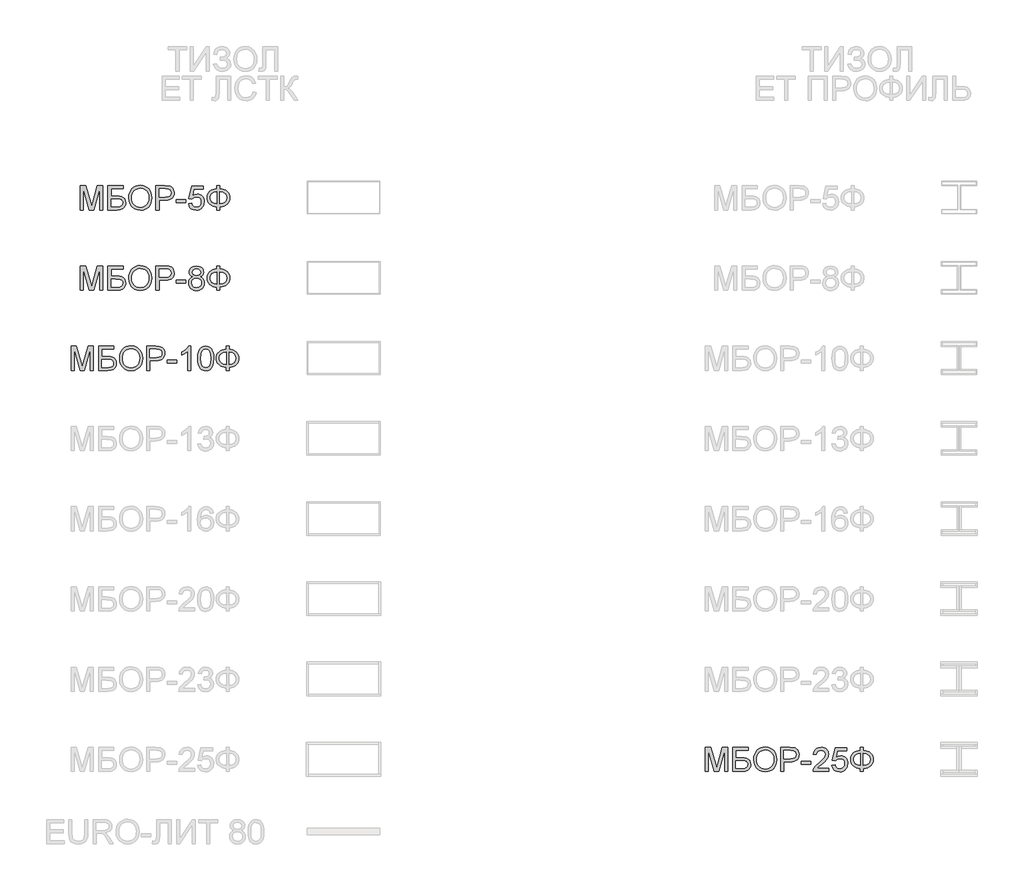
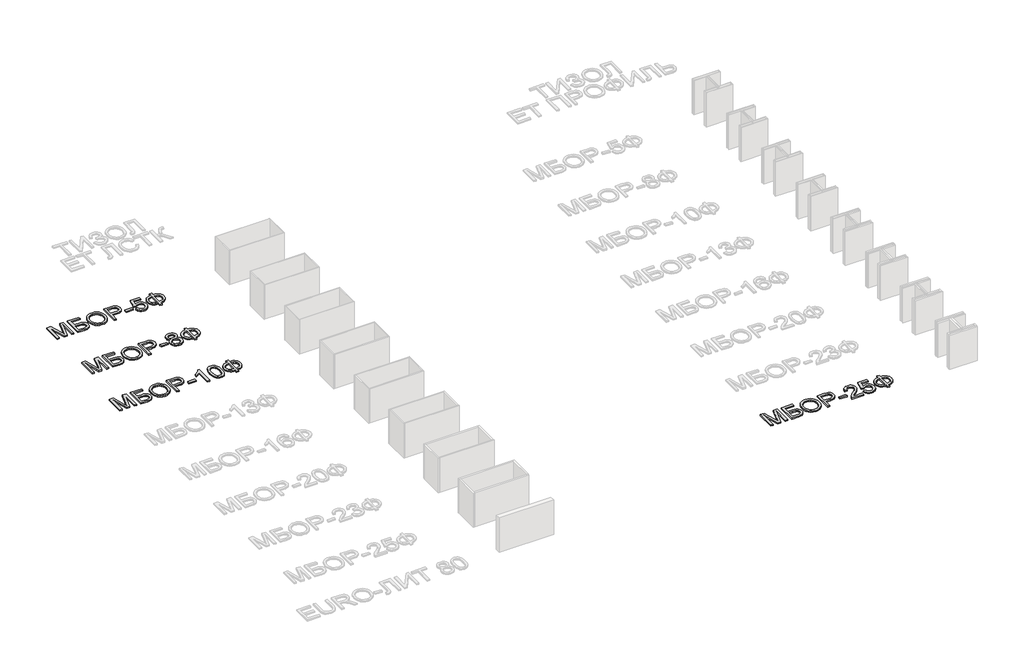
# One storey, part 13 of 35: 4 proxies.
"""IFC4 building model written with IfcOpenShell, lengths in millimetres."""

from ifc_helpers import new_model, si_unit, origin, origin_with_axes, place, context, project, spatial, polyline, outline, extrude, element, save

model = new_model("IFC4")

# Units and contexts
model_context = context("Model", 3, world=origin())
ifc_project = project(units=[si_unit("LENGTHUNIT", "METRE", prefix="MILLI")], contexts=[model_context])

# Site, building, storey
site = spatial("IfcSite", under=ifc_project)
building = spatial("IfcBuilding", under=site)
storey = spatial("IfcBuildingStorey", under=building, Name="Этаж 01", Elevation=0.0)

# Proxies
placement = place(None, origin())
element("IfcBuildingElementProxy", 1, Name="600 мм Arial", ObjectType="600 мм Arial", at=placement, inside=storey, context=model_context, shape_type="SweptSolid", body=[
    extrude(outline(polyline([(7721.8782648, -49310.4960856), (7721.8782648, -49009.1271552), (7786.6990723, -49009.1271552), (7848.3560947, -49221.5422192), (7860.7905062, -49265.9087878), (7874.2549872, -49217.8633993), (7934.88194, -49009.1271552), (7999.7027475, -49009.1271552), (7999.7027475, -49310.4960856), (7962.0316312, -49310.4960856), (7962.0316312, -49046.7982715), (7886.3215166, -49310.4960856), (7835.2594957, -49310.4960856), (7759.5493811, -49046.7982715), (7759.5493811, -49310.4960856), (7721.8782648, -49310.4960856)])), origin_with_axes(), (0.0, 0.0, 1.0), 20.0),
    extrude(outline(polyline([(8065.6272011, -49009.1271552), (8253.9827826, -49009.1271552), (8253.9827826, -49046.7982715), (8103.2983174, -49046.7982715), (8103.2983174, -49136.2671727), (8173.8580841, -49136.2671727), (8208.9356323, -49138.1801591), (8236.0301412, -49143.9191182), (8256.8338681, -49154.9739722), (8273.03907, -49172.8346431), (8283.4685245, -49195.8272678), (8286.9450094, -49222.2779832), (8284.471003, -49244.4888587), (8277.0489837, -49265.209812), (8264.7157398, -49283.3555915), (8247.5080595, -49297.840945), (8220.9653735, -49307.3323005), (8180.6271128, -49310.4960856), (8065.6272011, -49310.4960856), (8065.6272011, -49009.1271552)]), holes=[polyline([(8103.2983174, -49272.8249693), (8184.0116271, -49272.8249693), (8212.5408758, -49269.7163665), (8232.9399325, -49260.3905579), (8245.1904029, -49244.8475436), (8249.2738931, -49223.0873236), (8246.9378424, -49206.8821217), (8239.9296904, -49193.5831876), (8228.7552748, -49183.7239501), (8213.9204333, -49177.8378382), (8157.1562415, -49173.938289), (8103.2983174, -49173.938289), (8103.2983174, -49272.8249693)])]), origin_with_axes(), (0.0, 0.0, 1.0), 20.0),
    extrude(outline(polyline([(8324.6161257, -49163.784746), (8327.1269203, -49128.4358848), (8334.6593041, -49097.1429225), (8347.2132772, -49069.9058593), (8364.7888396, -49046.7246951), (8386.3329289, -49028.2156322), (8410.792483, -49014.994873), (8438.167502, -49007.0624175), (8468.4579858, -49004.4182657), (8507.9869062, -49009.3846726), (8543.4323364, -49024.2838934), (8572.862896, -49048.0674644), (8594.3472045, -49079.6869219), (8607.4805918, -49117.6155556), (8611.8583875, -49160.3266552), (8607.2506655, -49203.607972), (8593.4274996, -49242.0700345), (8571.1522447, -49273.7446743), (8541.1882562, -49296.6637226), (8506.0463287, -49310.569662), (8468.2372566, -49315.2049752), (8428.1013309, -49310.0822184), (8392.4535656, -49294.7139481), (8363.0965824, -49270.4889187), (8341.8330031, -49238.7958848), (8328.920345, -49202.329582), (8324.6161257, -49163.784746)]), holes=[polyline([(8362.287242, -49164.152628), (8364.1703379, -49189.1272169), (8369.8196258, -49211.2967056), (8379.2351057, -49230.6610942), (8392.4167774, -49247.2203825), (8408.4403375, -49260.4825284), (8426.3814826, -49269.9554898), (8446.2402125, -49275.6392666), (8468.0165274, -49277.5338589), (8490.1653228, -49275.6208725), (8510.2585775, -49269.8819134), (8528.2962916, -49260.3169815), (8544.278465, -49246.9260769), (8557.3635677, -49230.0173007), (8566.7100697, -49209.8987541), (8572.3179708, -49186.570437), (8574.1872712, -49160.0323496), (8570.9866978, -49126.6838468), (8561.3849778, -49097.8602924), (8545.6304313, -49074.2882536), (8523.9713789, -49056.6942972), (8497.8425602, -49045.7406108), (8468.678715, -49042.089382), (8447.6588575, -49043.8483178), (8428.1565132, -49049.1251251), (8410.1716822, -49057.9198041), (8393.7043644, -49070.2323546), (8379.9593733, -49086.6559864), (8370.1415226, -49107.7839093), (8364.2508121, -49133.6161231), (8362.287242, -49164.152628)])]), origin_with_axes(), (0.0, 0.0, 1.0), 20.0),
    extrude(outline(polyline([(8663.6561724, -49310.4960856), (8663.6561724, -49009.1271552), (8775.3451462, -49009.1271552), (8820.3739024, -49011.9966348), (8840.4510623, -49017.3585148), (8856.9781609, -49026.0865152), (8870.2862921, -49038.5761089), (8880.7065496, -49055.2227692), (8887.4387901, -49074.8584707), (8889.6828703, -49096.3151881), (8888.1676563, -49114.8150539), (8883.6220144, -49131.8341947), (8876.0459446, -49147.3726105), (8865.4394468, -49161.4303012), (8850.8782176, -49173.0829634), (8831.4379534, -49181.4062935), (8807.1186542, -49186.4002916), (8777.9203201, -49188.0649577), (8701.3272887, -49188.0649577), (8701.3272887, -49310.4960856), (8663.6561724, -49310.4960856)]), holes=[polyline([(8701.3272887, -49150.3938413), (8780.1276121, -49150.3938413), (8813.5312973, -49146.9357506), (8835.604217, -49136.5614783), (8847.9098697, -49119.914818), (8852.011754, -49097.6395632), (8849.5929298, -49080.7169915), (8842.3364575, -49066.44317), (8831.1436478, -49055.7010158), (8816.9158116, -49049.3734455), (8779.2446953, -49046.7982715), (8701.3272887, -49046.7982715), (8701.3272887, -49150.3938413)])]), origin_with_axes(), (0.0, 0.0, 1.0), 20.0),
    extrude(outline(polyline([(8917.9362075, -49221.0271844), (8917.9362075, -49183.3560681), (9035.658446, -49183.3560681), (9035.658446, -49221.0271844), (8917.9362075, -49221.0271844)])), origin_with_axes(), (0.0, 0.0, 1.0), 20.0),
    extrude(outline(polyline([(9068.6206727, -49230.4449635), (9106.291789, -49225.736074), (9113.2079705, -49248.3516196), (9125.2745, -49264.5476245), (9142.4361951, -49274.2873003), (9164.6378735, -49277.5338589), (9191.6404119, -49273.0181074), (9211.8739216, -49259.4708529), (9224.5106682, -49238.4555939), (9228.722917, -49211.5358289), (9224.7773826, -49186.1887595), (9212.9407794, -49166.8013783), (9193.1211369, -49154.4957256), (9165.2264847, -49150.3938413), (9146.9519465, -49152.0309162), (9132.1538933, -49156.9421409), (9111.0006786, -49173.938289), (9073.3295623, -49169.2293995), (9106.291789, -49013.8360447), (9252.2673647, -49013.8360447), (9252.2673647, -49051.507161), (9136.7524182, -49051.507161), (9120.6391868, -49134.5013392), (9147.5497548, -49118.1673786), (9175.7479097, -49112.722725), (9194.093725, -49114.4103837), (9210.9450196, -49119.4733597), (9226.3017936, -49127.9116529), (9240.1640471, -49139.7252635), (9251.6396661, -49154.1922229), (9259.8365368, -49170.5905629), (9264.7546592, -49188.9202833), (9266.3940333, -49209.1813842), (9260.4895273, -49246.8525005), (9253.1088948, -49263.6463136), (9242.7760092, -49279.0789633), (9227.1226303, -49294.8840935), (9208.8572893, -49306.1734722), (9187.9799861, -49312.9470994), (9164.4907207, -49315.2049752), (9127.490989, -49309.4016367), (9111.8123182, -49302.1474636), (9098.0144441, -49291.9916213), (9086.5342266, -49279.4399475), (9077.8085256, -49264.9982799), (9068.6206727, -49230.4449635)])), origin_with_axes(), (0.0, 0.0, 1.0), 20.0),
    extrude(outline(polyline([(9421.7873881, -49046.7982715), (9421.7873881, -49009.1271552), (9459.4585044, -49009.1271552), (9459.4585044, -49046.7982715), (9486.3299849, -49050.1184065), (9510.2170227, -49056.9886028), (9531.1196178, -49067.4088603), (9549.0377702, -49081.3791791), (9563.4104599, -49098.0856202), (9573.6766669, -49116.7142447), (9579.836391, -49137.2650526), (9581.8896324, -49159.738044), (9579.9007704, -49181.76038), (9573.9341842, -49202.0628676), (9563.9898741, -49220.6455069), (9550.0678398, -49237.5082978), (9532.4715841, -49251.7177399), (9511.5046097, -49262.3403325), (9487.1669164, -49269.3760756), (9459.4585044, -49272.8249693), (9459.4585044, -49310.4960856), (9421.7873881, -49310.4960856), (9421.7873881, -49272.8249693), (9396.6196611, -49270.0175699), (9373.650029, -49263.6555106), (9352.8784919, -49253.7387916), (9334.3050496, -49240.2674128), (9319.0149542, -49223.7977957), (9308.0934575, -49204.8863619), (9301.5405594, -49183.5331113), (9299.3562601, -49159.738044), (9301.5336617, -49135.8349114), (9308.0658663, -49114.4517704), (9318.9528741, -49095.5886211), (9334.194685, -49079.2454635), (9352.7336383, -49065.9051426), (9373.5120733, -49056.0505037), (9396.5299899, -49049.6815466), (9421.7873881, -49046.7982715)]), holes=[polyline([(9421.7873881, -49084.4693878), (9387.5099832, -49090.5026525), (9360.4614595, -49105.5122379), (9350.2090481, -49116.217604), (9342.8858972, -49128.8359564), (9338.4920066, -49143.3672952), (9337.0273764, -49159.8116204), (9338.4736125, -49176.1064935), (9342.8123208, -49190.5573582), (9350.0435012, -49203.1642143), (9360.1671539, -49213.9270619), (9387.1421012, -49229.0746031), (9421.7873881, -49235.153853), (9421.7873881, -49084.4693878)]), polyline([(9459.4585044, -49084.4693878), (9459.4585044, -49235.153853), (9494.7015995, -49228.9274503), (9521.5569852, -49213.7799091), (9531.471405, -49203.0538497), (9538.5531334, -49190.4837818), (9544.2185161, -49159.8116204), (9538.6543009, -49129.5533263), (9531.6990319, -49117.0591341), (9521.9616554, -49106.3215783), (9495.2074373, -49090.9992932), (9459.4585044, -49084.4693878)])]), origin_with_axes(), (0.0, 0.0, 1.0), 20.0),
])
element("IfcBuildingElementProxy", 2, Name="600 мм Arial", ObjectType="600 мм Arial", at=placement, inside=storey, context=model_context, shape_type="SweptSolid", body=[
    extrude(outline(polyline([(7721.8782648, -50310.4960856), (7721.8782648, -50009.1271552), (7786.6990723, -50009.1271552), (7848.3560947, -50221.5422192), (7860.7905062, -50265.9087878), (7874.2549872, -50217.8633993), (7934.88194, -50009.1271552), (7999.7027475, -50009.1271552), (7999.7027475, -50310.4960856), (7962.0316312, -50310.4960856), (7962.0316312, -50046.7982715), (7886.3215166, -50310.4960856), (7835.2594957, -50310.4960856), (7759.5493811, -50046.7982715), (7759.5493811, -50310.4960856), (7721.8782648, -50310.4960856)])), origin_with_axes(), (0.0, 0.0, 1.0), 20.0),
    extrude(outline(polyline([(8065.6272011, -50009.1271552), (8253.9827826, -50009.1271552), (8253.9827826, -50046.7982715), (8103.2983174, -50046.7982715), (8103.2983174, -50136.2671727), (8173.8580841, -50136.2671727), (8208.9356323, -50138.1801591), (8236.0301412, -50143.9191182), (8256.8338681, -50154.9739722), (8273.03907, -50172.8346431), (8283.4685245, -50195.8272678), (8286.9450094, -50222.2779832), (8284.471003, -50244.4888587), (8277.0489837, -50265.209812), (8264.7157398, -50283.3555915), (8247.5080595, -50297.840945), (8220.9653735, -50307.3323005), (8180.6271128, -50310.4960856), (8065.6272011, -50310.4960856), (8065.6272011, -50009.1271552)]), holes=[polyline([(8103.2983174, -50272.8249693), (8184.0116271, -50272.8249693), (8212.5408758, -50269.7163665), (8232.9399325, -50260.3905579), (8245.1904029, -50244.8475436), (8249.2738931, -50223.0873236), (8246.9378424, -50206.8821217), (8239.9296904, -50193.5831876), (8228.7552748, -50183.7239501), (8213.9204333, -50177.8378382), (8157.1562415, -50173.938289), (8103.2983174, -50173.938289), (8103.2983174, -50272.8249693)])]), origin_with_axes(), (0.0, 0.0, 1.0), 20.0),
    extrude(outline(polyline([(8324.6161257, -50163.784746), (8327.1269203, -50128.4358848), (8334.6593041, -50097.1429225), (8347.2132772, -50069.9058593), (8364.7888396, -50046.7246951), (8386.3329289, -50028.2156322), (8410.792483, -50014.994873), (8438.167502, -50007.0624175), (8468.4579858, -50004.4182657), (8507.9869062, -50009.3846726), (8543.4323364, -50024.2838934), (8572.862896, -50048.0674644), (8594.3472045, -50079.6869219), (8607.4805918, -50117.6155556), (8611.8583875, -50160.3266552), (8607.2506655, -50203.607972), (8593.4274996, -50242.0700345), (8571.1522447, -50273.7446743), (8541.1882562, -50296.6637226), (8506.0463287, -50310.569662), (8468.2372566, -50315.2049752), (8428.1013309, -50310.0822184), (8392.4535656, -50294.7139481), (8363.0965824, -50270.4889187), (8341.8330031, -50238.7958848), (8328.920345, -50202.329582), (8324.6161257, -50163.784746)]), holes=[polyline([(8362.287242, -50164.152628), (8364.1703379, -50189.1272169), (8369.8196258, -50211.2967056), (8379.2351057, -50230.6610942), (8392.4167774, -50247.2203825), (8408.4403375, -50260.4825284), (8426.3814826, -50269.9554898), (8446.2402125, -50275.6392666), (8468.0165274, -50277.5338589), (8490.1653228, -50275.6208725), (8510.2585775, -50269.8819134), (8528.2962916, -50260.3169815), (8544.278465, -50246.9260769), (8557.3635677, -50230.0173007), (8566.7100697, -50209.8987541), (8572.3179708, -50186.570437), (8574.1872712, -50160.0323496), (8570.9866978, -50126.6838468), (8561.3849778, -50097.8602924), (8545.6304313, -50074.2882536), (8523.9713789, -50056.6942972), (8497.8425602, -50045.7406108), (8468.678715, -50042.089382), (8447.6588575, -50043.8483178), (8428.1565132, -50049.1251251), (8410.1716822, -50057.9198041), (8393.7043644, -50070.2323546), (8379.9593733, -50086.6559864), (8370.1415226, -50107.7839093), (8364.2508121, -50133.6161231), (8362.287242, -50164.152628)])]), origin_with_axes(), (0.0, 0.0, 1.0), 20.0),
    extrude(outline(polyline([(8663.6561724, -50310.4960856), (8663.6561724, -50009.1271552), (8775.3451462, -50009.1271552), (8820.3739024, -50011.9966348), (8840.4510623, -50017.3585148), (8856.9781609, -50026.0865152), (8870.2862921, -50038.5761089), (8880.7065496, -50055.2227692), (8887.4387901, -50074.8584707), (8889.6828703, -50096.3151881), (8888.1676563, -50114.8150539), (8883.6220144, -50131.8341947), (8876.0459446, -50147.3726105), (8865.4394468, -50161.4303012), (8850.8782176, -50173.0829634), (8831.4379534, -50181.4062935), (8807.1186542, -50186.4002916), (8777.9203201, -50188.0649577), (8701.3272887, -50188.0649577), (8701.3272887, -50310.4960856), (8663.6561724, -50310.4960856)]), holes=[polyline([(8701.3272887, -50150.3938413), (8780.1276121, -50150.3938413), (8813.5312973, -50146.9357506), (8835.604217, -50136.5614783), (8847.9098697, -50119.914818), (8852.011754, -50097.6395632), (8849.5929298, -50080.7169915), (8842.3364575, -50066.44317), (8831.1436478, -50055.7010158), (8816.9158116, -50049.3734455), (8779.2446953, -50046.7982715), (8701.3272887, -50046.7982715), (8701.3272887, -50150.3938413)])]), origin_with_axes(), (0.0, 0.0, 1.0), 20.0),
    extrude(outline(polyline([(8917.9362075, -50221.0271844), (8917.9362075, -50183.3560681), (9035.658446, -50183.3560681), (9035.658446, -50221.0271844), (8917.9362075, -50221.0271844)])), origin_with_axes(), (0.0, 0.0, 1.0), 20.0),
    extrude(outline(polyline([(9123.5086664, -50144.5077294), (9103.339536, -50134.5749156), (9089.1852763, -50121.1104345), (9080.8251579, -50104.3901979), (9078.0384518, -50084.690117), (9079.555965, -50069.3264452), (9084.1085047, -50055.2411633), (9091.6960709, -50042.4342713), (9102.3186635, -50030.9057693), (9115.4658463, -50021.3776256), (9130.627183, -50014.5718087), (9166.9923182, -50009.1271552), (9203.5781827, -50014.7005674), (9218.9050663, -50021.6673327), (9232.2545842, -50031.4208041), (9243.0703148, -50043.1746339), (9250.7958367, -50056.1424742), (9255.4311499, -50070.3243251), (9256.9762543, -50085.7201866), (9254.2263363, -50104.785671), (9245.9765826, -50121.2207991), (9232.1350225, -50134.6025067), (9212.6096856, -50144.5077294), (9235.7954484, -50156.4546972), (9252.6720349, -50174.0486536), (9262.9635337, -50196.4434701), (9266.3940333, -50222.793018), (9264.6925791, -50241.5825909), (9259.5882164, -50258.8086653), (9251.0809453, -50274.4712413), (9239.1707657, -50288.5703187), (9224.483077, -50300.2229809), (9207.6432787, -50308.5463111), (9188.6513707, -50313.5403092), (9167.507353, -50315.2049752), (9146.3633354, -50313.5334114), (9127.3714274, -50308.5187199), (9110.531629, -50300.1609008), (9095.8439404, -50288.4599541), (9083.9337608, -50274.2620084), (9075.4264896, -50258.4131922), (9070.322127, -50240.9135055), (9068.6206727, -50221.7629484), (9072.1891281, -50194.392528), (9082.8944941, -50171.8781499), (9100.1849479, -50154.9923663), (9123.5086664, -50144.5077294)]), holes=[polyline([(9115.7095681, -50085.793763), (9119.0480972, -50102.2380882), (9129.0636845, -50115.3714754), (9145.4620245, -50123.9799141), (9167.9488114, -50126.8493937), (9189.9113665, -50123.9983082), (9206.0613861, -50115.4450518), (9215.9942, -50102.753123), (9219.3051379, -50087.4860202), (9215.8838354, -50071.6395032), (9205.6199277, -50058.5337072), (9189.2491789, -50049.7321304), (9167.507353, -50046.7982715), (9145.6275714, -50049.6677511), (9129.2844137, -50058.2761898), (9119.1032795, -50070.8945422), (9115.7095681, -50085.793763)]), polyline([(9106.291789, -50220.4385732), (9112.5825711, -50248.8022751), (9121.2921774, -50260.969972), (9134.8394319, -50270.0290662), (9151.0630278, -50275.6576607), (9167.8016586, -50277.5338589), (9193.4430337, -50273.5883245), (9212.683262, -50261.7517213), (9224.7130033, -50243.8266711), (9228.722917, -50221.6157956), (9224.5842446, -50199.0278411), (9212.1682272, -50180.7073178), (9192.4865405, -50168.5672119), (9166.5508598, -50164.52051), (9141.2681697, -50168.5120296), (9122.2210794, -50180.4865886), (9110.2741116, -50198.457624), (9106.291789, -50220.4385732)])]), origin_with_axes(), (0.0, 0.0, 1.0), 20.0),
    extrude(outline(polyline([(9421.7873881, -50046.7982715), (9421.7873881, -50009.1271552), (9459.4585044, -50009.1271552), (9459.4585044, -50046.7982715), (9486.3299849, -50050.1184065), (9510.2170227, -50056.9886028), (9531.1196178, -50067.4088603), (9549.0377702, -50081.3791791), (9563.4104599, -50098.0856202), (9573.6766669, -50116.7142447), (9579.836391, -50137.2650526), (9581.8896324, -50159.738044), (9579.9007704, -50181.76038), (9573.9341842, -50202.0628676), (9563.9898741, -50220.6455069), (9550.0678398, -50237.5082978), (9532.4715841, -50251.7177399), (9511.5046097, -50262.3403325), (9487.1669164, -50269.3760756), (9459.4585044, -50272.8249693), (9459.4585044, -50310.4960856), (9421.7873881, -50310.4960856), (9421.7873881, -50272.8249693), (9396.6196611, -50270.0175699), (9373.650029, -50263.6555106), (9352.8784919, -50253.7387916), (9334.3050496, -50240.2674128), (9319.0149542, -50223.7977957), (9308.0934575, -50204.8863619), (9301.5405594, -50183.5331113), (9299.3562601, -50159.738044), (9301.5336617, -50135.8349114), (9308.0658663, -50114.4517704), (9318.9528741, -50095.5886211), (9334.194685, -50079.2454635), (9352.7336383, -50065.9051426), (9373.5120733, -50056.0505037), (9396.5299899, -50049.6815466), (9421.7873881, -50046.7982715)]), holes=[polyline([(9421.7873881, -50084.4693878), (9387.5099832, -50090.5026525), (9360.4614595, -50105.5122379), (9350.2090481, -50116.217604), (9342.8858972, -50128.8359564), (9338.4920066, -50143.3672952), (9337.0273764, -50159.8116204), (9338.4736125, -50176.1064935), (9342.8123208, -50190.5573582), (9350.0435012, -50203.1642143), (9360.1671539, -50213.9270619), (9387.1421012, -50229.0746031), (9421.7873881, -50235.153853), (9421.7873881, -50084.4693878)]), polyline([(9459.4585044, -50084.4693878), (9459.4585044, -50235.153853), (9494.7015995, -50228.9274503), (9521.5569852, -50213.7799091), (9531.471405, -50203.0538497), (9538.5531334, -50190.4837818), (9544.2185161, -50159.8116204), (9538.6543009, -50129.5533263), (9531.6990319, -50117.0591341), (9521.9616554, -50106.3215783), (9495.2074373, -50090.9992932), (9459.4585044, -50084.4693878)])]), origin_with_axes(), (0.0, 0.0, 1.0), 20.0),
])
element("IfcBuildingElementProxy", 3, Name="600 мм Arial", ObjectType="600 мм Arial", at=placement, inside=storey, context=model_context, shape_type="SweptSolid", body=[
    extrude(outline(polyline([(7606.5104711, -51310.4960856), (7606.5104711, -51009.1271552), (7671.3312786, -51009.1271552), (7732.988301, -51221.5422192), (7745.4227125, -51265.9087878), (7758.8871935, -51217.8633993), (7819.5141463, -51009.1271552), (7884.3349539, -51009.1271552), (7884.3349539, -51310.4960856), (7846.6638375, -51310.4960856), (7846.6638375, -51046.7982715), (7770.9537229, -51310.4960856), (7719.891702, -51310.4960856), (7644.1815874, -51046.7982715), (7644.1815874, -51310.4960856), (7606.5104711, -51310.4960856)])), origin_with_axes(), (0.0, 0.0, 1.0), 20.0),
    extrude(outline(polyline([(7950.2594074, -51009.1271552), (8138.6149889, -51009.1271552), (8138.6149889, -51046.7982715), (7987.9305237, -51046.7982715), (7987.9305237, -51136.2671727), (8058.4902904, -51136.2671727), (8093.5678386, -51138.1801591), (8120.6623476, -51143.9191182), (8141.4660744, -51154.9739722), (8157.6712763, -51172.8346431), (8168.1007308, -51195.8272678), (8171.5772157, -51222.2779832), (8169.1032093, -51244.4888587), (8161.68119, -51265.209812), (8149.3479461, -51283.3555915), (8132.1402658, -51297.840945), (8105.5975799, -51307.3323005), (8065.2593191, -51310.4960856), (7950.2594074, -51310.4960856), (7950.2594074, -51009.1271552)]), holes=[polyline([(7987.9305237, -51272.8249693), (8068.6438334, -51272.8249693), (8097.1730822, -51269.7163665), (8117.5721388, -51260.3905579), (8129.8226092, -51244.8475436), (8133.9060994, -51223.0873236), (8131.5700487, -51206.8821217), (8124.5618967, -51193.5831876), (8113.3874811, -51183.7239501), (8098.5526396, -51177.8378382), (8041.7884478, -51173.938289), (7987.9305237, -51173.938289), (7987.9305237, -51272.8249693)])]), origin_with_axes(), (0.0, 0.0, 1.0), 20.0),
    extrude(outline(polyline([(8209.248332, -51163.784746), (8211.7591266, -51128.4358848), (8219.2915105, -51097.1429225), (8231.8454835, -51069.9058593), (8249.4210459, -51046.7246951), (8270.9651352, -51028.2156322), (8295.4246894, -51014.994873), (8322.7997083, -51007.0624175), (8353.0901921, -51004.4182657), (8392.6191125, -51009.3846726), (8428.0645427, -51024.2838934), (8457.4951023, -51048.0674644), (8478.9794109, -51079.6869219), (8492.1127981, -51117.6155556), (8496.4905938, -51160.3266552), (8491.8828718, -51203.607972), (8478.0597059, -51242.0700345), (8455.7844511, -51273.7446743), (8425.8204626, -51296.6637226), (8390.678535, -51310.569662), (8352.8694629, -51315.2049752), (8312.7335372, -51310.0822184), (8277.0857719, -51294.7139481), (8247.7287887, -51270.4889187), (8226.4652094, -51238.7958848), (8213.5525513, -51202.329582), (8209.248332, -51163.784746)]), holes=[polyline([(8246.9194483, -51164.152628), (8248.8025443, -51189.1272169), (8254.4518321, -51211.2967056), (8263.867312, -51230.6610942), (8277.0489837, -51247.2203825), (8293.0725439, -51260.4825284), (8311.0136889, -51269.9554898), (8330.8724189, -51275.6392666), (8352.6487337, -51277.5338589), (8374.7975291, -51275.6208725), (8394.8907838, -51269.8819134), (8412.9284979, -51260.3169815), (8428.9106713, -51246.9260769), (8441.995774, -51230.0173007), (8451.342276, -51209.8987541), (8456.9501771, -51186.570437), (8458.8194775, -51160.0323496), (8455.6189042, -51126.6838468), (8446.0171841, -51097.8602924), (8430.2626376, -51074.2882536), (8408.6035852, -51056.6942972), (8382.4747665, -51045.7406108), (8353.3109213, -51042.089382), (8332.2910638, -51043.8483178), (8312.7887195, -51049.1251251), (8294.8038885, -51057.9198041), (8278.3365707, -51070.2323546), (8264.5915796, -51086.6559864), (8254.7737289, -51107.7839093), (8248.8830184, -51133.6161231), (8246.9194483, -51164.152628)])]), origin_with_axes(), (0.0, 0.0, 1.0), 20.0),
    extrude(outline(polyline([(8548.2883787, -51310.4960856), (8548.2883787, -51009.1271552), (8659.9773525, -51009.1271552), (8705.0061087, -51011.9966348), (8725.0832686, -51017.3585148), (8741.6103672, -51026.0865152), (8754.9184984, -51038.5761089), (8765.3387559, -51055.2227692), (8772.0709964, -51074.8584707), (8774.3150766, -51096.3151881), (8772.7998626, -51114.8150539), (8768.2542207, -51131.8341947), (8760.6781509, -51147.3726105), (8750.0716531, -51161.4303012), (8735.5104239, -51173.0829634), (8716.0701597, -51181.4062935), (8691.7508606, -51186.4002916), (8662.5525264, -51188.0649577), (8585.9594951, -51188.0649577), (8585.9594951, -51310.4960856), (8548.2883787, -51310.4960856)]), holes=[polyline([(8585.9594951, -51150.3938413), (8664.7598184, -51150.3938413), (8698.1635036, -51146.9357506), (8720.2364233, -51136.5614783), (8732.542076, -51119.914818), (8736.6439603, -51097.6395632), (8734.2251362, -51080.7169915), (8726.9686638, -51066.44317), (8715.7758541, -51055.7010158), (8701.5480179, -51049.3734455), (8663.8769016, -51046.7982715), (8585.9594951, -51046.7982715), (8585.9594951, -51150.3938413)])]), origin_with_axes(), (0.0, 0.0, 1.0), 20.0),
    extrude(outline(polyline([(8802.5684138, -51221.0271844), (8802.5684138, -51183.3560681), (8920.2906523, -51183.3560681), (8920.2906523, -51221.0271844), (8802.5684138, -51221.0271844)])), origin_with_axes(), (0.0, 0.0, 1.0), 20.0),
    extrude(outline(polyline([(9094.5195652, -51310.4960856), (9056.8484489, -51310.4960856), (9056.8484489, -51075.6402199), (9021.1638953, -51101.0608658), (8981.5062163, -51120.0803649), (8981.5062163, -51084.4693878), (9011.0931257, -51068.3745505), (9036.7253037, -51049.2262927), (9056.9312223, -51028.8640242), (9070.2393535, -51009.1271552), (9094.5195652, -51009.1271552), (9094.5195652, -51310.4960856)])), origin_with_axes(), (0.0, 0.0, 1.0), 20.0),
    extrude(outline(polyline([(9183.9884664, -51162.2396416), (9186.7567784, -51114.001115), (9195.0617145, -51075.5298553), (9208.8205011, -51046.2372515), (9227.9503648, -51025.5346922), (9252.5892615, -51013.2290394), (9282.8751467, -51009.1271552), (9306.0885006, -51011.5551764), (9326.8738333, -51018.8392399), (9344.2562576, -51030.6942372), (9357.2608861, -51046.8350597), (9367.0833354, -51067.1237517), (9374.9192219, -51091.4223575), (9380.0511757, -51122.2784599), (9381.761827, -51162.2396416), (9379.0211062, -51210.2022567), (9370.7989436, -51248.5815459), (9357.1229304, -51277.9017409), (9338.0206578, -51298.6870736), (9313.3265789, -51311.0754998), (9282.8751467, -51315.2049752), (9262.1266022, -51313.4115505), (9243.7325024, -51308.0312763), (9227.6928474, -51299.0641526), (9214.0076372, -51286.5101796), (9200.87425, -51263.816459), (9191.4932591, -51235.5401291), (9185.8646646, -51201.68119), (9183.9884664, -51162.2396416)]), holes=[polyline([(9221.6595827, -51162.1660652), (9226.0741667, -51221.4226576), (9231.5923966, -51241.6906562), (9239.3179185, -51255.7184566), (9259.0363934, -51272.0800083), (9282.8751467, -51277.5338589), (9306.7139, -51272.0616142), (9326.4323749, -51255.6448802), (9334.1578968, -51241.5940872), (9339.6761268, -51221.3306871), (9344.0907107, -51162.1660652), (9339.8232796, -51104.2430451), (9334.4889906, -51084.041725), (9327.0209861, -51069.6805316), (9307.3392994, -51052.5188365), (9282.4336883, -51046.7982715), (9258.8524524, -51051.8382548), (9239.9065297, -51066.9582048), (9231.9234904, -51082.5931896), (9226.2213195, -51103.672828), (9221.6595827, -51162.1660652)])]), origin_with_axes(), (0.0, 0.0, 1.0), 20.0),
    extrude(outline(polyline([(9537.1551818, -51046.7982715), (9537.1551818, -51009.1271552), (9574.8262981, -51009.1271552), (9574.8262981, -51046.7982715), (9601.6977786, -51050.1184065), (9625.5848164, -51056.9886028), (9646.4874115, -51067.4088603), (9664.4055639, -51081.3791791), (9678.7782536, -51098.0856202), (9689.0444605, -51116.7142447), (9695.2041847, -51137.2650526), (9697.2574261, -51159.738044), (9695.268564, -51181.76038), (9689.3019779, -51202.0628676), (9679.3576678, -51220.6455069), (9665.4356335, -51237.5082978), (9647.8393778, -51251.7177399), (9626.8724034, -51262.3403325), (9602.5347101, -51269.3760756), (9574.8262981, -51272.8249693), (9574.8262981, -51310.4960856), (9537.1551818, -51310.4960856), (9537.1551818, -51272.8249693), (9511.9874548, -51270.0175699), (9489.0178227, -51263.6555106), (9468.2462856, -51253.7387916), (9449.6728433, -51240.2674128), (9434.3827479, -51223.7977957), (9423.4612512, -51204.8863619), (9416.9083531, -51183.5331113), (9414.7240538, -51159.738044), (9416.9014553, -51135.8349114), (9423.43366, -51114.4517704), (9434.3206678, -51095.5886211), (9449.5624787, -51079.2454635), (9468.101432, -51065.9051426), (9488.879867, -51056.0505037), (9511.8977836, -51049.6815466), (9537.1551818, -51046.7982715)]), holes=[polyline([(9574.8262981, -51084.4693878), (9574.8262981, -51235.153853), (9610.0693932, -51228.9274503), (9636.9247789, -51213.7799091), (9646.8391986, -51203.0538497), (9653.9209271, -51190.4837818), (9659.5863098, -51159.8116204), (9654.0220946, -51129.5533263), (9647.0668256, -51117.0591341), (9637.3294491, -51106.3215783), (9610.575231, -51090.9992932), (9574.8262981, -51084.4693878)]), polyline([(9537.1551818, -51084.4693878), (9502.8777769, -51090.5026525), (9475.8292532, -51105.5122379), (9465.5768418, -51116.217604), (9458.2536909, -51128.8359564), (9453.8598003, -51143.3672952), (9452.3951701, -51159.8116204), (9453.8414062, -51176.1064935), (9458.1801145, -51190.5573582), (9465.4112949, -51203.1642143), (9475.5349476, -51213.9270619), (9502.5098949, -51229.0746031), (9537.1551818, -51235.153853), (9537.1551818, -51084.4693878)])]), origin_with_axes(), (0.0, 0.0, 1.0), 20.0),
])
element("IfcBuildingElementProxy", 4, Name="600 мм Arial", ObjectType="600 мм Arial", at=placement, inside=storey, context=model_context, shape_type="SweptSolid", body=[
    extrude(outline(polyline([(15506.5104711, -56310.4960856), (15506.5104711, -56009.1271552), (15571.3312786, -56009.1271552), (15632.988301, -56221.5422192), (15645.4227125, -56265.9087878), (15658.8871935, -56217.8633993), (15719.5141463, -56009.1271552), (15784.3349539, -56009.1271552), (15784.3349539, -56310.4960856), (15746.6638375, -56310.4960856), (15746.6638375, -56046.7982715), (15670.9537229, -56310.4960856), (15619.891702, -56310.4960856), (15544.1815874, -56046.7982715), (15544.1815874, -56310.4960856), (15506.5104711, -56310.4960856)])), origin_with_axes(), (0.0, 0.0, 1.0), 20.0),
    extrude(outline(polyline([(15850.2594074, -56009.1271552), (16038.6149889, -56009.1271552), (16038.6149889, -56046.7982715), (15887.9305237, -56046.7982715), (15887.9305237, -56136.2671727), (15958.4902904, -56136.2671727), (15993.5678386, -56138.1801591), (16020.6623476, -56143.9191182), (16041.4660744, -56154.9739722), (16057.6712763, -56172.8346431), (16068.1007308, -56195.8272678), (16071.5772157, -56222.2779832), (16069.1032093, -56244.4888587), (16061.68119, -56265.209812), (16049.3479461, -56283.3555915), (16032.1402658, -56297.840945), (16005.5975799, -56307.3323005), (15965.2593191, -56310.4960856), (15850.2594074, -56310.4960856), (15850.2594074, -56009.1271552)]), holes=[polyline([(15887.9305237, -56272.8249693), (15968.6438334, -56272.8249693), (15997.1730822, -56269.7163665), (16017.5721388, -56260.3905579), (16029.8226092, -56244.8475436), (16033.9060994, -56223.0873236), (16031.5700487, -56206.8821217), (16024.5618967, -56193.5831876), (16013.3874811, -56183.7239501), (15998.5526396, -56177.8378382), (15941.7884478, -56173.938289), (15887.9305237, -56173.938289), (15887.9305237, -56272.8249693)])]), origin_with_axes(), (0.0, 0.0, 1.0), 20.0),
    extrude(outline(polyline([(16109.248332, -56163.784746), (16111.7591266, -56128.4358848), (16119.2915105, -56097.1429225), (16131.8454835, -56069.9058593), (16149.4210459, -56046.7246951), (16170.9651352, -56028.2156322), (16195.4246894, -56014.994873), (16222.7997083, -56007.0624175), (16253.0901921, -56004.4182657), (16292.6191125, -56009.3846726), (16328.0645427, -56024.2838934), (16357.4951023, -56048.0674644), (16378.9794109, -56079.6869219), (16392.1127981, -56117.6155556), (16396.4905938, -56160.3266552), (16391.8828718, -56203.607972), (16378.0597059, -56242.0700345), (16355.7844511, -56273.7446743), (16325.8204626, -56296.6637226), (16290.678535, -56310.569662), (16252.8694629, -56315.2049752), (16212.7335372, -56310.0822184), (16177.0857719, -56294.7139481), (16147.7287887, -56270.4889187), (16126.4652094, -56238.7958848), (16113.5525513, -56202.329582), (16109.248332, -56163.784746)]), holes=[polyline([(16146.9194483, -56164.152628), (16148.8025443, -56189.1272169), (16154.4518321, -56211.2967056), (16163.867312, -56230.6610942), (16177.0489837, -56247.2203825), (16193.0725439, -56260.4825284), (16211.0136889, -56269.9554898), (16230.8724189, -56275.6392666), (16252.6487337, -56277.5338589), (16274.7975291, -56275.6208725), (16294.8907838, -56269.8819134), (16312.9284979, -56260.3169815), (16328.9106713, -56246.9260769), (16341.995774, -56230.0173007), (16351.342276, -56209.8987541), (16356.9501771, -56186.570437), (16358.8194775, -56160.0323496), (16355.6189042, -56126.6838468), (16346.0171841, -56097.8602924), (16330.2626376, -56074.2882536), (16308.6035852, -56056.6942972), (16282.4747665, -56045.7406108), (16253.3109213, -56042.089382), (16232.2910638, -56043.8483178), (16212.7887195, -56049.1251251), (16194.8038885, -56057.9198041), (16178.3365707, -56070.2323546), (16164.5915796, -56086.6559864), (16154.7737289, -56107.7839093), (16148.8830184, -56133.6161231), (16146.9194483, -56164.152628)])]), origin_with_axes(), (0.0, 0.0, 1.0), 20.0),
    extrude(outline(polyline([(16448.2883787, -56310.4960856), (16448.2883787, -56009.1271552), (16559.9773525, -56009.1271552), (16605.0061087, -56011.9966348), (16625.0832686, -56017.3585148), (16641.6103672, -56026.0865152), (16654.9184984, -56038.5761089), (16665.3387559, -56055.2227692), (16672.0709964, -56074.8584707), (16674.3150766, -56096.3151881), (16672.7998626, -56114.8150539), (16668.2542207, -56131.8341947), (16660.6781509, -56147.3726105), (16650.0716531, -56161.4303012), (16635.5104239, -56173.0829634), (16616.0701597, -56181.4062935), (16591.7508606, -56186.4002916), (16562.5525264, -56188.0649577), (16485.9594951, -56188.0649577), (16485.9594951, -56310.4960856), (16448.2883787, -56310.4960856)]), holes=[polyline([(16485.9594951, -56150.3938413), (16564.7598184, -56150.3938413), (16598.1635036, -56146.9357506), (16620.2364233, -56136.5614783), (16632.542076, -56119.914818), (16636.6439603, -56097.6395632), (16634.2251362, -56080.7169915), (16626.9686638, -56066.44317), (16615.7758541, -56055.7010158), (16601.5480179, -56049.3734455), (16563.8769016, -56046.7982715), (16485.9594951, -56046.7982715), (16485.9594951, -56150.3938413)])]), origin_with_axes(), (0.0, 0.0, 1.0), 20.0),
    extrude(outline(polyline([(16702.5684138, -56221.0271844), (16702.5684138, -56183.3560681), (16820.2906523, -56183.3560681), (16820.2906523, -56221.0271844), (16702.5684138, -56221.0271844)])), origin_with_axes(), (0.0, 0.0, 1.0), 20.0),
    extrude(outline(polyline([(17046.3173501, -56272.8249693), (17046.3173501, -56310.4960856), (16848.5439895, -56310.4960856), (16852.5906914, -56284.5236168), (16861.8797118, -56264.2257277), (16875.4729515, -56244.5348439), (16895.1362442, -56223.9242551), (16922.6354233, -56200.8672511), (16963.2863838, -56164.7596333), (16987.6769601, -56138.1065827), (16999.8722482, -56116.4751214), (17003.9373443, -56095.4322713), (17000.1021745, -56076.569122), (16988.5966651, -56060.8881519), (16970.9107381, -56050.3207416), (16948.5343158, -56046.7982715), (16925.0358533, -56050.2379682), (16906.7797093, -56060.5570581), (16894.9982884, -56076.946201), (16890.9239953, -56098.5960564), (16853.252879, -56093.8871669), (16862.3855496, -56057.4484553), (16870.9319082, -56042.9125179), (16882.1316157, -56030.8321929), (16895.7271546, -56021.3362389), (16911.4610077, -56014.5534146), (16949.3436562, -56009.1271552), (16969.5334799, -56010.6354714), (16987.5022161, -56015.1604199), (17003.2498648, -56022.7020008), (17016.7764259, -56033.2602141), (17027.6404411, -56046.0533105), (17035.4004519, -56060.2995407), (17040.0564584, -56075.9989049), (17041.6084606, -56093.1514029), (17039.9345975, -56111.1684236), (17034.9130083, -56128.8727446), (17026.0010669, -56146.8805683), (17012.6561475, -56165.8080969), (16991.3833712, -56188.4052485), (16958.6878589, -56217.4219409), (16915.3513598, -56253.6583174), (16898.3552116, -56272.8249693), (17046.3173501, -56272.8249693)])), origin_with_axes(), (0.0, 0.0, 1.0), 20.0),
    extrude(outline(polyline([(17083.9884664, -56230.4449635), (17121.6595827, -56225.736074), (17128.5757642, -56248.3516196), (17140.6422937, -56264.5476245), (17157.8039887, -56274.2873003), (17180.0056672, -56277.5338589), (17207.0082056, -56273.0181074), (17227.2417153, -56259.4708529), (17239.8784619, -56238.4555939), (17244.0907107, -56211.5358289), (17240.1451763, -56186.1887595), (17228.3085731, -56166.8013783), (17208.4889306, -56154.4957256), (17180.5942783, -56150.3938413), (17162.3197402, -56152.0309162), (17147.521687, -56156.9421409), (17126.3684723, -56173.938289), (17088.697356, -56169.2293995), (17121.6595827, -56013.8360447), (17267.6351584, -56013.8360447), (17267.6351584, -56051.507161), (17152.1202119, -56051.507161), (17136.0069805, -56134.5013392), (17162.9175485, -56118.1673786), (17191.1157034, -56112.722725), (17209.4615187, -56114.4103837), (17226.3128133, -56119.4733597), (17241.6695873, -56127.9116529), (17255.5318408, -56139.7252635), (17267.0074598, -56154.1922229), (17275.2043305, -56170.5905629), (17280.1224529, -56188.9202833), (17281.761827, -56209.1813842), (17275.857321, -56246.8525005), (17268.4766885, -56263.6463136), (17258.1438029, -56279.0789633), (17242.490424, -56294.8840935), (17224.225083, -56306.1734722), (17203.3477797, -56312.9470994), (17179.8585144, -56315.2049752), (17142.8587827, -56309.4016367), (17127.1801119, -56302.1474636), (17113.3822378, -56291.9916213), (17101.9020203, -56279.4399475), (17093.1763192, -56264.9982799), (17083.9884664, -56230.4449635)])), origin_with_axes(), (0.0, 0.0, 1.0), 20.0),
    extrude(outline(polyline([(17437.1551818, -56046.7982715), (17437.1551818, -56009.1271552), (17474.8262981, -56009.1271552), (17474.8262981, -56046.7982715), (17501.6977786, -56050.1184065), (17525.5848164, -56056.9886028), (17546.4874115, -56067.4088603), (17564.4055639, -56081.3791791), (17578.7782536, -56098.0856202), (17589.0444605, -56116.7142447), (17595.2041847, -56137.2650526), (17597.2574261, -56159.738044), (17595.268564, -56181.76038), (17589.3019779, -56202.0628676), (17579.3576678, -56220.6455069), (17565.4356335, -56237.5082978), (17547.8393778, -56251.7177399), (17526.8724034, -56262.3403325), (17502.5347101, -56269.3760756), (17474.8262981, -56272.8249693), (17474.8262981, -56310.4960856), (17437.1551818, -56310.4960856), (17437.1551818, -56272.8249693), (17411.9874548, -56270.0175699), (17389.0178227, -56263.6555106), (17368.2462856, -56253.7387916), (17349.6728433, -56240.2674128), (17334.3827479, -56223.7977957), (17323.4612512, -56204.8863619), (17316.9083531, -56183.5331113), (17314.7240538, -56159.738044), (17316.9014553, -56135.8349114), (17323.43366, -56114.4517704), (17334.3206678, -56095.5886211), (17349.5624787, -56079.2454635), (17368.101432, -56065.9051426), (17388.879867, -56056.0505037), (17411.8977836, -56049.6815466), (17437.1551818, -56046.7982715)]), holes=[polyline([(17437.1551818, -56084.4693878), (17402.8777769, -56090.5026525), (17375.8292532, -56105.5122379), (17365.5768418, -56116.217604), (17358.2536909, -56128.8359564), (17353.8598003, -56143.3672952), (17352.3951701, -56159.8116204), (17353.8414062, -56176.1064935), (17358.1801145, -56190.5573582), (17365.4112949, -56203.1642143), (17375.5349476, -56213.9270619), (17402.5098949, -56229.0746031), (17437.1551818, -56235.153853), (17437.1551818, -56084.4693878)]), polyline([(17474.8262981, -56084.4693878), (17474.8262981, -56235.153853), (17510.0693932, -56228.9274503), (17536.9247789, -56213.7799091), (17546.8391986, -56203.0538497), (17553.9209271, -56190.4837818), (17559.5863098, -56159.8116204), (17554.0220946, -56129.5533263), (17547.0668256, -56117.0591341), (17537.3294491, -56106.3215783), (17510.575231, -56090.9992932), (17474.8262981, -56084.4693878)])]), origin_with_axes(), (0.0, 0.0, 1.0), 20.0),
])

save(model, "model.ifc")
